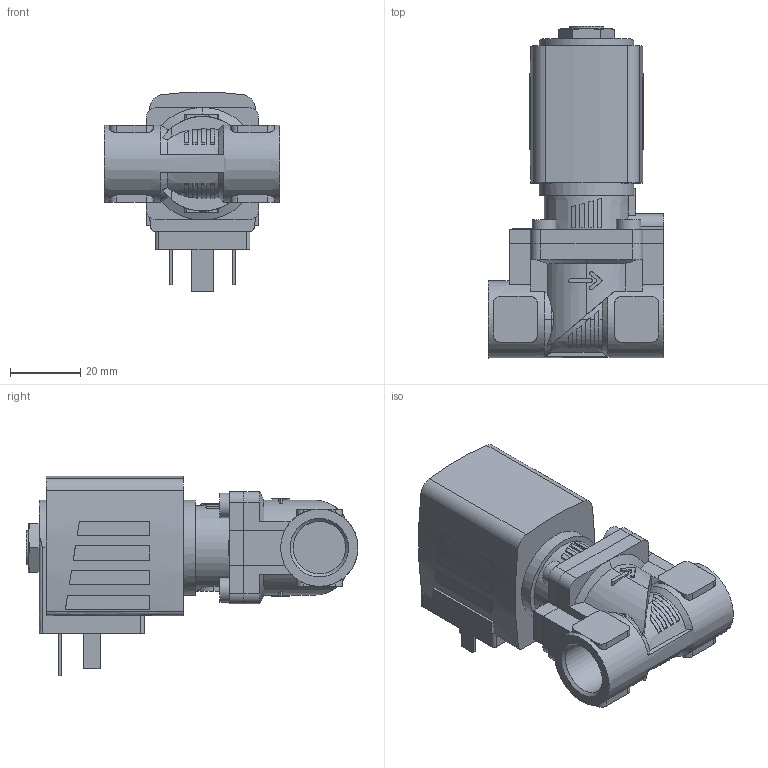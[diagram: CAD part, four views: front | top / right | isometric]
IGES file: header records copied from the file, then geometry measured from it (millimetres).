
Start section: Data from Parasolid IGES Translator 26.0.171, Copyright(c) 2006 Siemens PLM Software. All Rights Reserved.
Global section: file name: 6281-376932-2_2-Way_Solenoid_Valve__Servo-assisted__General_Purpose.igs; native system: By Siemens PLM Incorporated; preprocessor: XPlus GENERIC/IGES 26.0.171; author: Noname; organization: Noname; date: 20240617.154004; units: millimetre
Bounding box: 50 x 94.5 x 56.91 mm (x, y, z)
Surface area: 22254.9 mm2 (no closed solid volume)
Topology: 0 solids, 0 shells, 351 faces, 1802 edges, 1784 vertices
Faces by surface type: extrusion 231, revolution 120
